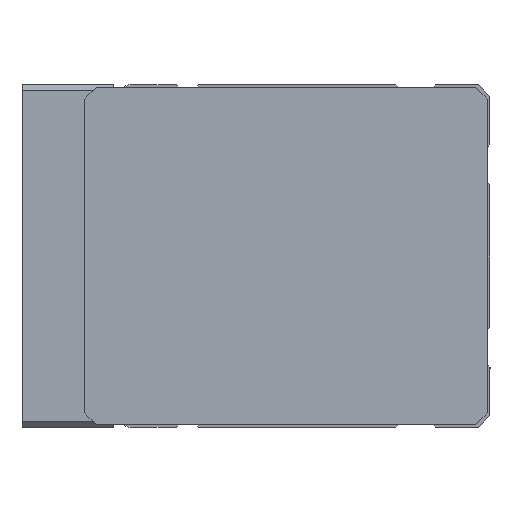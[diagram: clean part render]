
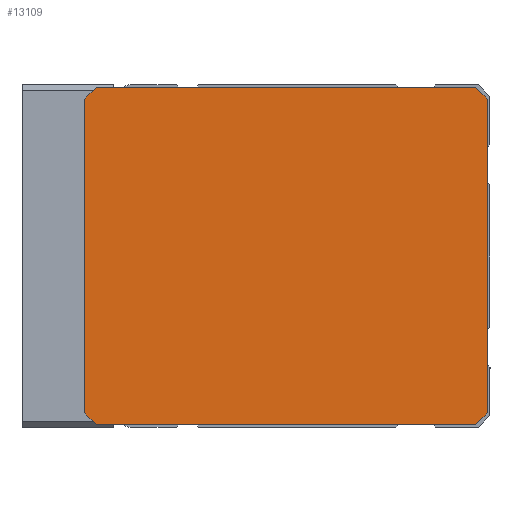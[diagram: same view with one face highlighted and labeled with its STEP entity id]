
A CAD part, left-side view. The second image highlights one B-rep face of the part: STEP entity #13109.
In plain terms, the highlighted planar face has unit normal (-1, 0, 0) as drawn and (0, 0, -1) by its records, which use the part's own axes.
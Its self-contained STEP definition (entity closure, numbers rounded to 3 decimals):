
#930=FACE_OUTER_BOUND('',#1688,.T.);
#1688=EDGE_LOOP('',(#8967,#8968,#8969,#8970,#8971,#8972,#8973,#8974));
#2690=LINE('',#18419,#3978);
#2693=LINE('',#18424,#3981);
#2695=LINE('',#18428,#3983);
#2697=LINE('',#18432,#3985);
#2699=LINE('',#18436,#3987);
#2701=LINE('',#18446,#3989);
#2704=LINE('',#18450,#3992);
#2705=LINE('',#18452,#3993);
#3978=VECTOR('',#15137,66.5);
#3981=VECTOR('',#15142,2.828);
#3983=VECTOR('',#15146,55.);
#3985=VECTOR('',#15150,2.828);
#3987=VECTOR('',#15154,66.5);
#3989=VECTOR('',#15164,55.);
#3992=VECTOR('',#15169,2.828);
#3993=VECTOR('',#15172,2.828);
#5609=VERTEX_POINT('',#18417);
#5610=VERTEX_POINT('',#18418);
#5611=VERTEX_POINT('',#18423);
#5612=VERTEX_POINT('',#18427);
#5613=VERTEX_POINT('',#18431);
#5614=VERTEX_POINT('',#18435);
#5617=VERTEX_POINT('',#18444);
#5618=VERTEX_POINT('',#18445);
#6952=EDGE_CURVE('',#5609,#5610,#2690,.T.);
#6955=EDGE_CURVE('',#5611,#5609,#2693,.T.);
#6957=EDGE_CURVE('',#5612,#5611,#2695,.T.);
#6959=EDGE_CURVE('',#5613,#5612,#2697,.T.);
#6961=EDGE_CURVE('',#5614,#5613,#2699,.T.);
#6965=EDGE_CURVE('',#5617,#5618,#2701,.T.);
#6968=EDGE_CURVE('',#5618,#5614,#2704,.T.);
#6969=EDGE_CURVE('',#5610,#5617,#2705,.T.);
#8967=ORIENTED_EDGE('',*,*,#6955,.T.);
#8968=ORIENTED_EDGE('',*,*,#6952,.T.);
#8969=ORIENTED_EDGE('',*,*,#6969,.T.);
#8970=ORIENTED_EDGE('',*,*,#6965,.T.);
#8971=ORIENTED_EDGE('',*,*,#6968,.T.);
#8972=ORIENTED_EDGE('',*,*,#6961,.T.);
#8973=ORIENTED_EDGE('',*,*,#6959,.T.);
#8974=ORIENTED_EDGE('',*,*,#6957,.T.);
#12661=PLANE('',#13991);
#13109=ADVANCED_FACE('',(#930),#12661,.T.);
#13991=AXIS2_PLACEMENT_3D('',#18453,#15173,#15174);
#15137=DIRECTION('',(0.,-1.,0.));
#15142=DIRECTION('',(0.707,-0.707,0.));
#15146=DIRECTION('',(1.,0.,0.));
#15150=DIRECTION('',(0.707,0.707,0.));
#15154=DIRECTION('',(0.,1.,0.));
#15164=DIRECTION('',(-1.,0.,0.));
#15169=DIRECTION('',(-0.707,0.707,0.));
#15172=DIRECTION('',(-0.707,-0.707,0.));
#15173=DIRECTION('center_axis',(0.,0.,
-1.));
#15174=DIRECTION('ref_axis',(-1.,0.,0.));
#18417=CARTESIAN_POINT('',(0.5,69.,-890.));
#18418=CARTESIAN_POINT('',(0.5,2.5,-890.));
#18419=CARTESIAN_POINT('',(0.5,69.,-890.));
#18423=CARTESIAN_POINT('',(-1.5,71.,-890.));
#18424=CARTESIAN_POINT('',(-1.5,71.,-890.));
#18427=CARTESIAN_POINT('',(-56.5,71.,-890.));
#18428=CARTESIAN_POINT('',(-56.5,71.,-890.));
#18431=CARTESIAN_POINT('',(-58.5,69.,-890.));
#18432=CARTESIAN_POINT('',(-58.5,69.,-890.));
#18435=CARTESIAN_POINT('',(-58.5,2.5,-890.));
#18436=CARTESIAN_POINT('',(-58.5,2.5,-890.));
#18444=CARTESIAN_POINT('',(-1.5,0.5,-890.));
#18445=CARTESIAN_POINT('',(-56.5,0.5,-890.));
#18446=CARTESIAN_POINT('',(-1.5,0.5,-890.));
#18450=CARTESIAN_POINT('',(-56.5,0.5,-890.));
#18452=CARTESIAN_POINT('',(0.5,2.5,-890.));
#18453=CARTESIAN_POINT('Origin',(-174.931,117.937,-890.));
